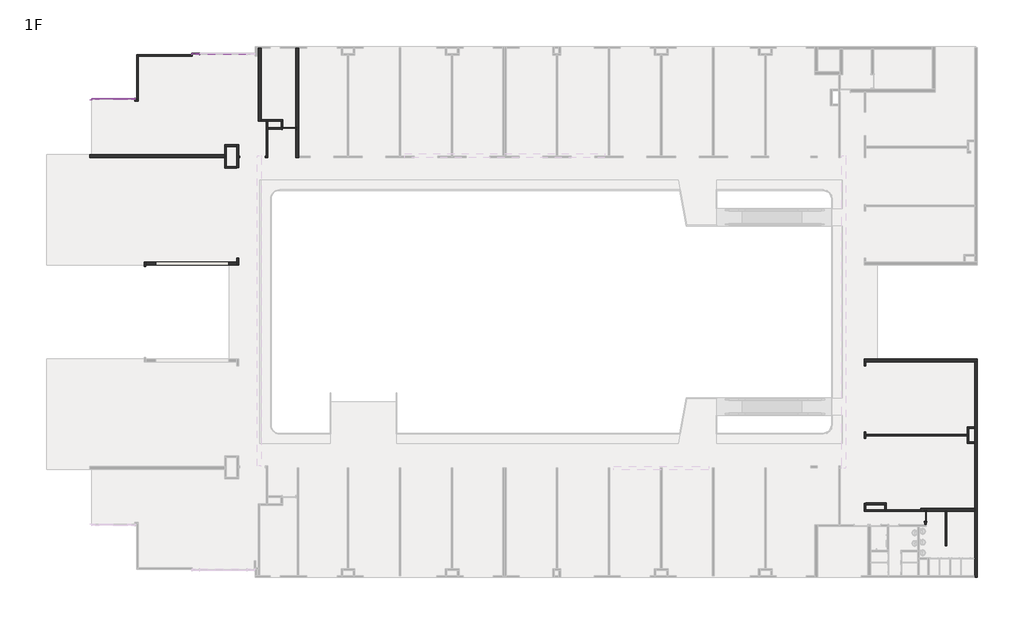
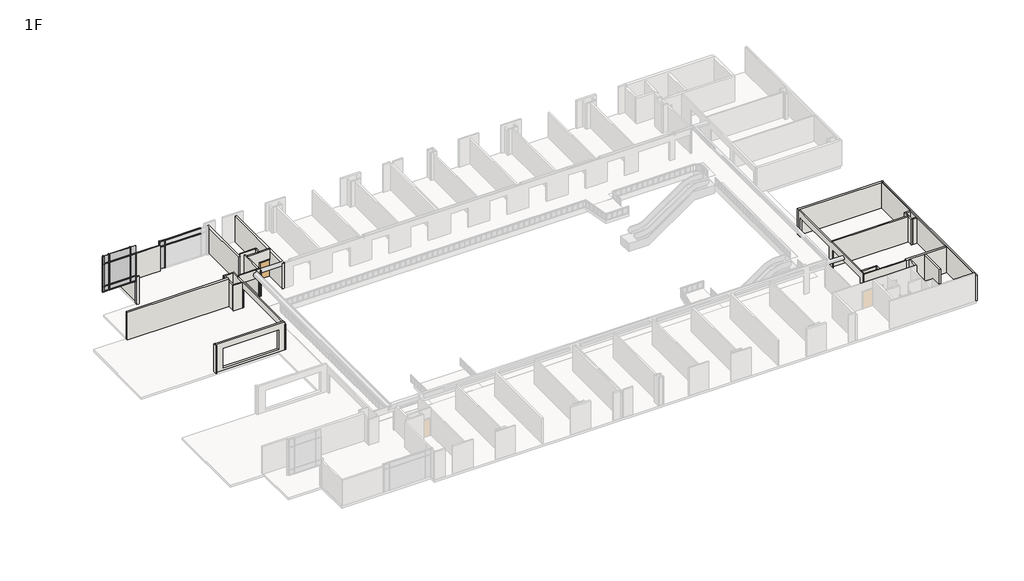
# One storey, part 3 of 5: 31 members, 30 walls, 11 plates, 2 doors.
"""IFC4 building model written with IfcOpenShell, lengths in millimetres."""

from ifc_helpers import new_model, si_unit, frame, origin, place, context, project, spatial, polyline, outline, extrude, faceted_brep, transform, mapped, element, save
from components import m_single_flush_d_1200x2150_ee7a6381, m_single_flush_d_900x2150_4cfb9a1c, rectangular_mullion_50_x_150mm_68b3818a, rectangular_mullion_50_x_150mm_64d38db8, rectangular_mullion_50_x_150mm_9e0f1e24, rectangular_mullion_50_x_150mm_d11e3bb4, rectangular_mullion_50_x_150mm_7d543e93, rectangular_mullion_50_x_150mm_9b8962c0, rectangular_mullion_50_x_150mm_32aaa733, rectangular_mullion_50_x_150mm_edc7ebc1, rectangular_mullion_50_x_150mm_567c0dda, rectangular_mullion_50_x_150mm_8786dd09, rectangular_mullion_50_x_150mm_b34d1ea9, rectangular_mullion_50_x_150mm_fb6851b2, rectangular_mullion_50_x_150mm_dbb82e9e, rectangular_mullion_50_x_150mm_bb797b61, v_corner_mullion_v_mullion_1_67d7d202, v_corner_mullion_v_mullion_1_71accf86, v_corner_mullion_v_mullion_1_86484a11, system_panel_glazed_6ff5b55b, system_panel_glazed_93ed122c, system_panel_glazed_9694b00d, system_panel_glazed_bcb18e60, system_panel_glazed_ecfc68fb, system_panel_glazed_010530aa

model = new_model("IFC4")

# Units and contexts
model_context = context("Model", 3, world=origin())
ifc_project = project(units=[si_unit("LENGTHUNIT", "METRE", prefix="MILLI")], contexts=[model_context])

# Site, building, storey
site = spatial("IfcSite", under=ifc_project)
building = spatial("IfcBuilding", under=site)
storey = spatial("IfcBuildingStorey", under=building, Name="1F", Elevation=4650.0)

# Doors
placement = place(None, origin())
m_single_flush_d_1200x2150_shape = m_single_flush_d_1200x2150_ee7a6381(model_context)
element("IfcDoor", 1, ObjectType="M_Single-Flush : D-1200x2150", at=placement, inside=storey, context=model_context, shape_type="MappedRepresentation", body=[
    mapped(m_single_flush_d_1200x2150_shape, transform((-18037.5865899, 13998.3851347, 4650.0), x_axis=(1.0, 0.0, 0.0), y_axis=(0.0, 1.0, 0.0), z_axis=(0.0, 0.0, 1.0))),
])
m_single_flush_d_900x2150_shape = m_single_flush_d_900x2150_4cfb9a1c(model_context)
element("IfcDoor", 2, ObjectType="M_Single-Flush : D-900x2150", at=placement, inside=storey, context=model_context, shape_type="MappedRepresentation", body=[
    mapped(m_single_flush_d_900x2150_shape, transform((38363.4134101, -20422.6148653, 4650.0), x_axis=(0.0, 1.0, 0.0), y_axis=(-1.0, 0.0, 0.0), z_axis=(0.0, 0.0, 1.0))),
])

# Members
rectangular_mullion_50_x_150mm_shape = rectangular_mullion_50_x_150mm_68b3818a(model_context)
element("IfcMember", 3, ObjectType="Rectangular Mullion : 50 x 150mm", at=placement, inside=storey, context=model_context, shape_type="MappedRepresentation", body=[
    mapped(rectangular_mullion_50_x_150mm_shape, transform((-26627.5865899, 20597.3851347, 7525.0), x_axis=(0.0, 0.0, 1.0), y_axis=(0.0, 1.0, 0.0), z_axis=(-1.0, 0.0, 0.0))),
])
rectangular_mullion_50_x_150mm_2_shape = rectangular_mullion_50_x_150mm_64d38db8(model_context)
element("IfcMember", 4, ObjectType="Rectangular Mullion : 50 x 150mm", at=placement, inside=storey, context=model_context, shape_type="MappedRepresentation", body=[
    mapped(rectangular_mullion_50_x_150mm_2_shape, transform((-26627.5865899, 20597.3851347, 8200.0), x_axis=(0.0, 0.0, 1.0), y_axis=(0.0, 1.0, 0.0), z_axis=(-1.0, 0.0, 0.0))),
])
element("IfcMember", 5, ObjectType="Rectangular Mullion : 50 x 150mm", at=placement, inside=storey, context=model_context, shape_type="MappedRepresentation", body=[
    mapped(rectangular_mullion_50_x_150mm_shape, transform((-32337.5865899, 16597.3851347, 10975.0), x_axis=(0.0, 0.0, 1.0), y_axis=(0.0, 1.0, 0.0), z_axis=(-1.0, 0.0, 0.0))),
])
element("IfcMember", 6, ObjectType="Rectangular Mullion : 50 x 150mm", at=placement, inside=storey, context=model_context, shape_type="MappedRepresentation", body=[
    mapped(rectangular_mullion_50_x_150mm_shape, transform((-35512.5865899, 16597.3851347, 10975.0), x_axis=(0.0, 0.0, 1.0), y_axis=(0.0, 1.0, 0.0), z_axis=(-1.0, 0.0, 0.0))),
])
element("IfcMember", 7, ObjectType="Rectangular Mullion : 50 x 150mm", at=placement, inside=storey, context=model_context, shape_type="MappedRepresentation", body=[
    mapped(rectangular_mullion_50_x_150mm_shape, transform((-32337.5865899, 16597.3851347, 8175.0), x_axis=(0.0, 0.0, 1.0), y_axis=(0.0, 1.0, 0.0), z_axis=(-1.0, 0.0, 0.0))),
])
element("IfcMember", 8, ObjectType="Rectangular Mullion : 50 x 150mm", at=placement, inside=storey, context=model_context, shape_type="MappedRepresentation", body=[
    mapped(rectangular_mullion_50_x_150mm_shape, transform((-35512.5865899, 16597.3851347, 8175.0), x_axis=(0.0, 0.0, 1.0), y_axis=(0.0, 1.0, 0.0), z_axis=(-1.0, 0.0, 0.0))),
])
element("IfcMember", 9, ObjectType="Rectangular Mullion : 50 x 150mm", at=placement, inside=storey, context=model_context, shape_type="MappedRepresentation", body=[
    mapped(rectangular_mullion_50_x_150mm_shape, transform((-32337.5865899, 16597.3851347, 7525.0), x_axis=(0.0, 0.0, 1.0), y_axis=(0.0, 1.0, 0.0), z_axis=(-1.0, 0.0, 0.0))),
])
element("IfcMember", 10, ObjectType="Rectangular Mullion : 50 x 150mm", at=placement, inside=storey, context=model_context, shape_type="MappedRepresentation", body=[
    mapped(rectangular_mullion_50_x_150mm_shape, transform((-35512.5865899, 16597.3851347, 7525.0), x_axis=(0.0, 0.0, 1.0), y_axis=(0.0, 1.0, 0.0), z_axis=(-1.0, 0.0, 0.0))),
])
rectangular_mullion_50_x_150mm_3_shape = rectangular_mullion_50_x_150mm_9e0f1e24(model_context)
element("IfcMember", 11, ObjectType="Rectangular Mullion : 50 x 150mm", at=placement, inside=storey, context=model_context, shape_type="MappedRepresentation", body=[
    mapped(rectangular_mullion_50_x_150mm_3_shape, transform((-26652.5865899, 20597.3851347, 7525.0), x_axis=(-1.0, 0.0, 0.0), y_axis=(0.0, 1.0, 0.0), z_axis=(0.0, 0.0, -1.0))),
])
element("IfcMember", 12, ObjectType="Rectangular Mullion : 50 x 150mm", at=placement, inside=storey, context=model_context, shape_type="MappedRepresentation", body=[
    mapped(rectangular_mullion_50_x_150mm_3_shape, transform((-26002.5865899, 20597.3851347, 7525.0), x_axis=(-1.0, 0.0, 0.0), y_axis=(0.0, 1.0, 0.0), z_axis=(0.0, 0.0, -1.0))),
])
rectangular_mullion_50_x_150mm_4_shape = rectangular_mullion_50_x_150mm_d11e3bb4(model_context)
element("IfcMember", 13, ObjectType="Rectangular Mullion : 50 x 150mm", at=placement, inside=storey, context=model_context, shape_type="MappedRepresentation", body=[
    mapped(rectangular_mullion_50_x_150mm_4_shape, transform((-32362.5865899, 16597.3851347, 8175.0), x_axis=(-1.0, 0.0, 0.0), y_axis=(0.0, 1.0, 0.0), z_axis=(0.0, 0.0, -1.0))),
])
element("IfcMember", 14, ObjectType="Rectangular Mullion : 50 x 150mm", at=placement, inside=storey, context=model_context, shape_type="MappedRepresentation", body=[
    mapped(rectangular_mullion_50_x_150mm_4_shape, transform((-34887.5865899, 16597.3851347, 8175.0), x_axis=(-1.0, 0.0, 0.0), y_axis=(0.0, 1.0, 0.0), z_axis=(0.0, 0.0, -1.0))),
])
rectangular_mullion_50_x_150mm_5_shape = rectangular_mullion_50_x_150mm_7d543e93(model_context)
element("IfcMember", 15, ObjectType="Rectangular Mullion : 50 x 150mm", at=placement, inside=storey, context=model_context, shape_type="MappedRepresentation", body=[
    mapped(rectangular_mullion_50_x_150mm_5_shape, transform((-32362.5865899, 16597.3851347, 7525.0), x_axis=(-1.0, 0.0, 0.0), y_axis=(0.0, 1.0, 0.0), z_axis=(0.0, 0.0, -1.0))),
])
element("IfcMember", 16, ObjectType="Rectangular Mullion : 50 x 150mm", at=placement, inside=storey, context=model_context, shape_type="MappedRepresentation", body=[
    mapped(rectangular_mullion_50_x_150mm_5_shape, transform((-34887.5865899, 16597.3851347, 7525.0), x_axis=(-1.0, 0.0, 0.0), y_axis=(0.0, 1.0, 0.0), z_axis=(0.0, 0.0, -1.0))),
])
rectangular_mullion_50_x_150mm_6_shape = rectangular_mullion_50_x_150mm_9b8962c0(model_context)
element("IfcMember", 17, ObjectType="Rectangular Mullion : 50 x 150mm", at=placement, inside=storey, context=model_context, shape_type="MappedRepresentation", body=[
    mapped(rectangular_mullion_50_x_150mm_6_shape, transform((-31687.5865899, 16597.3851347, 8175.0), x_axis=(1.0, 0.0, 0.0), y_axis=(0.0, 1.0, 0.0), z_axis=(0.0, 0.0, 1.0))),
])
rectangular_mullion_50_x_150mm_7_shape = rectangular_mullion_50_x_150mm_32aaa733(model_context)
element("IfcMember", 18, ObjectType="Rectangular Mullion : 50 x 150mm", at=placement, inside=storey, context=model_context, shape_type="MappedRepresentation", body=[
    mapped(rectangular_mullion_50_x_150mm_7_shape, transform((-31687.5865899, 16597.3851347, 10975.0), x_axis=(1.0, 0.0, 0.0), y_axis=(0.0, 1.0, 0.0), z_axis=(0.0, 0.0, 1.0))),
])
rectangular_mullion_50_x_150mm_8_shape = rectangular_mullion_50_x_150mm_edc7ebc1(model_context)
element("IfcMember", 19, ObjectType="Rectangular Mullion : 50 x 150mm", at=placement, inside=storey, context=model_context, shape_type="MappedRepresentation", body=[
    mapped(rectangular_mullion_50_x_150mm_8_shape, transform((-34862.5865899, 16597.3851347, 10975.0), x_axis=(0.0, 0.0, 1.0), y_axis=(0.0, 1.0, 0.0), z_axis=(-1.0, 0.0, 0.0))),
])
element("IfcMember", 20, ObjectType="Rectangular Mullion : 50 x 150mm", at=placement, inside=storey, context=model_context, shape_type="MappedRepresentation", body=[
    mapped(rectangular_mullion_50_x_150mm_8_shape, transform((-34862.5865899, 16597.3851347, 8175.0), x_axis=(0.0, 0.0, 1.0), y_axis=(0.0, 1.0, 0.0), z_axis=(-1.0, 0.0, 0.0))),
])
element("IfcMember", 21, ObjectType="Rectangular Mullion : 50 x 150mm", at=placement, inside=storey, context=model_context, shape_type="MappedRepresentation", body=[
    mapped(rectangular_mullion_50_x_150mm_8_shape, transform((-34862.5865899, 16597.3851347, 7525.0), x_axis=(0.0, 0.0, 1.0), y_axis=(0.0, 1.0, 0.0), z_axis=(-1.0, 0.0, 0.0))),
])
rectangular_mullion_50_x_150mm_9_shape = rectangular_mullion_50_x_150mm_567c0dda(model_context)
element("IfcMember", 22, ObjectType="Rectangular Mullion : 50 x 150mm", at=placement, inside=storey, context=model_context, shape_type="MappedRepresentation", body=[
    mapped(rectangular_mullion_50_x_150mm_9_shape, transform((-26652.5865899, 20597.3851347, 4750.0), x_axis=(-1.0, 0.0, 0.0), y_axis=(0.0, 1.0, 0.0), z_axis=(0.0, 0.0, -1.0))),
])
element("IfcMember", 23, ObjectType="Rectangular Mullion : 50 x 150mm", at=placement, inside=storey, context=model_context, shape_type="MappedRepresentation", body=[
    mapped(rectangular_mullion_50_x_150mm_9_shape, transform((-26002.5865899, 20597.3851347, 4750.0), x_axis=(-1.0, 0.0, 0.0), y_axis=(0.0, 1.0, 0.0), z_axis=(0.0, 0.0, -1.0))),
])
rectangular_mullion_50_x_150mm_10_shape = rectangular_mullion_50_x_150mm_8786dd09(model_context)
element("IfcMember", 24, ObjectType="Rectangular Mullion : 50 x 150mm", at=placement, inside=storey, context=model_context, shape_type="MappedRepresentation", body=[
    mapped(rectangular_mullion_50_x_150mm_10_shape, transform((-25977.5865899, 20597.3851347, 7525.0), x_axis=(0.0, 0.0, 1.0), y_axis=(0.0, 1.0, 0.0), z_axis=(-1.0, 0.0, 0.0))),
])
rectangular_mullion_50_x_150mm_11_shape = rectangular_mullion_50_x_150mm_b34d1ea9(model_context)
element("IfcMember", 25, ObjectType="Rectangular Mullion : 50 x 150mm", at=placement, inside=storey, context=model_context, shape_type="MappedRepresentation", body=[
    mapped(rectangular_mullion_50_x_150mm_11_shape, transform((-25977.5865899, 20597.3851347, 8200.0), x_axis=(0.0, 0.0, 1.0), y_axis=(0.0, 1.0, 0.0), z_axis=(-1.0, 0.0, 0.0))),
])
rectangular_mullion_50_x_150mm_12_shape = rectangular_mullion_50_x_150mm_fb6851b2(model_context)
element("IfcMember", 26, ObjectType="Rectangular Mullion : 50 x 150mm", at=placement, inside=storey, context=model_context, shape_type="MappedRepresentation", body=[
    mapped(rectangular_mullion_50_x_150mm_12_shape, transform((-26677.5865899, 20597.3851347, 4750.0), x_axis=(-1.0, 0.0, 0.0), y_axis=(0.0, 1.0, 0.0), z_axis=(0.0, 0.0, -1.0))),
])
rectangular_mullion_50_x_150mm_13_shape = rectangular_mullion_50_x_150mm_dbb82e9e(model_context)
element("IfcMember", 27, ObjectType="Rectangular Mullion : 50 x 150mm", at=placement, inside=storey, context=model_context, shape_type="MappedRepresentation", body=[
    mapped(rectangular_mullion_50_x_150mm_13_shape, transform((-26677.5865899, 20597.3851347, 7525.0), x_axis=(-1.0, 0.0, 0.0), y_axis=(0.0, 1.0, 0.0), z_axis=(0.0, 0.0, -1.0))),
])
element("IfcMember", 28, ObjectType="Rectangular Mullion : 50 x 150mm", at=placement, inside=storey, context=model_context, shape_type="MappedRepresentation", body=[
    mapped(rectangular_mullion_50_x_150mm_12_shape, transform((-31687.5865899, 16597.3851347, 7525.0), x_axis=(1.0, 0.0, 0.0), y_axis=(0.0, 1.0, 0.0), z_axis=(0.0, 0.0, 1.0))),
])
rectangular_mullion_50_x_150mm_14_shape = rectangular_mullion_50_x_150mm_bb797b61(model_context)
element("IfcMember", 29, ObjectType="Rectangular Mullion : 50 x 150mm", at=placement, inside=storey, context=model_context, shape_type="MappedRepresentation", body=[
    mapped(rectangular_mullion_50_x_150mm_14_shape, transform((-32362.5865899, 16597.3851347, 10975.0), x_axis=(-1.0, 0.0, 0.0), y_axis=(0.0, 1.0, 0.0), z_axis=(0.0, 0.0, -1.0))),
])
element("IfcMember", 30, ObjectType="Rectangular Mullion : 50 x 150mm", at=placement, inside=storey, context=model_context, shape_type="MappedRepresentation", body=[
    mapped(rectangular_mullion_50_x_150mm_14_shape, transform((-34887.5865899, 16597.3851347, 10975.0), x_axis=(-1.0, 0.0, 0.0), y_axis=(0.0, 1.0, 0.0), z_axis=(0.0, 0.0, -1.0))),
])
v_corner_mullion_v_mullion_1_shape = v_corner_mullion_v_mullion_1_67d7d202(model_context)
element("IfcMember", 31, ObjectType="V Corner Mullion : V Mullion 1", at=placement, inside=storey, context=model_context, shape_type="MappedRepresentation", body=[
    mapped(v_corner_mullion_v_mullion_1_shape, transform((-35612.5865899, 16597.3851347, 8175.0), x_axis=(-1.0, 0.0, 0.0), y_axis=(0.0, 1.0, 0.0), z_axis=(0.0, 0.0, -1.0))),
])
v_corner_mullion_v_mullion_1_2_shape = v_corner_mullion_v_mullion_1_71accf86(model_context)
element("IfcMember", 32, ObjectType="V Corner Mullion : V Mullion 1", at=placement, inside=storey, context=model_context, shape_type="MappedRepresentation", body=[
    mapped(v_corner_mullion_v_mullion_1_2_shape, transform((-35612.5865899, 16597.3851347, 7525.0), x_axis=(-1.0, 0.0, 0.0), y_axis=(0.0, 1.0, 0.0), z_axis=(0.0, 0.0, -1.0))),
])
v_corner_mullion_v_mullion_1_3_shape = v_corner_mullion_v_mullion_1_86484a11(model_context)
element("IfcMember", 33, ObjectType="V Corner Mullion : V Mullion 1", at=placement, inside=storey, context=model_context, shape_type="MappedRepresentation", body=[
    mapped(v_corner_mullion_v_mullion_1_3_shape, transform((-35612.5865899, 16597.3851347, 10975.0), x_axis=(-1.0, 0.0, 0.0), y_axis=(0.0, 1.0, 0.0), z_axis=(0.0, 0.0, -1.0))),
])

# Plates
system_panel_glazed_shape = system_panel_glazed_6ff5b55b(model_context)
element("IfcPlate", 34, ObjectType="System Panel : Glazed", at=placement, inside=storey, context=model_context, shape_type="MappedRepresentation", body=[
    mapped(system_panel_glazed_shape, transform((-26327.5865899, 20597.3851347, 4750.0), x_axis=(-1.0, 0.0, 0.0), y_axis=(0.0, -1.0, 0.0), z_axis=(0.0, 0.0, 1.0))),
])
element("IfcPlate", 35, ObjectType="System Panel : Glazed", at=placement, inside=storey, context=model_context, shape_type="MappedRepresentation", body=[
    mapped(system_panel_glazed_shape, transform((-32037.5865899, 16597.3851347, 8200.0), x_axis=(-1.0, 0.0, 0.0), y_axis=(0.0, -1.0, 0.0), z_axis=(0.0, 0.0, 1.0))),
])
element("IfcPlate", 36, ObjectType="System Panel : Glazed", at=placement, inside=storey, context=model_context, shape_type="MappedRepresentation", body=[
    mapped(system_panel_glazed_shape, transform((-35212.5865899, 16597.3851347, 8200.0), x_axis=(-1.0, 0.0, 0.0), y_axis=(0.0, -1.0, 0.0), z_axis=(0.0, 0.0, 1.0))),
])
system_panel_glazed_2_shape = system_panel_glazed_93ed122c(model_context)
element("IfcPlate", 37, ObjectType="System Panel : Glazed", at=placement, inside=storey, context=model_context, shape_type="MappedRepresentation", body=[
    mapped(system_panel_glazed_2_shape, transform((-26327.5865899, 20597.3851347, 7550.0), x_axis=(-1.0, 0.0, 0.0), y_axis=(0.0, -1.0, 0.0), z_axis=(0.0, 0.0, 1.0))),
])
element("IfcPlate", 38, ObjectType="System Panel : Glazed", at=placement, inside=storey, context=model_context, shape_type="MappedRepresentation", body=[
    mapped(system_panel_glazed_2_shape, transform((-32037.5865899, 16597.3851347, 7550.0), x_axis=(-1.0, 0.0, 0.0), y_axis=(0.0, -1.0, 0.0), z_axis=(0.0, 0.0, 1.0))),
])
element("IfcPlate", 39, ObjectType="System Panel : Glazed", at=placement, inside=storey, context=model_context, shape_type="MappedRepresentation", body=[
    mapped(system_panel_glazed_2_shape, transform((-35212.5865899, 16597.3851347, 7550.0), x_axis=(-1.0, 0.0, 0.0), y_axis=(0.0, -1.0, 0.0), z_axis=(0.0, 0.0, 1.0))),
])
system_panel_glazed_3_shape = system_panel_glazed_9694b00d(model_context)
element("IfcPlate", 40, ObjectType="System Panel : Glazed", at=placement, inside=storey, context=model_context, shape_type="MappedRepresentation", body=[
    mapped(system_panel_glazed_3_shape, transform((-33625.0865899, 16597.3851347, 7550.0), x_axis=(-1.0, 0.0, 0.0), y_axis=(0.0, -1.0, 0.0), z_axis=(0.0, 0.0, 1.0))),
])
system_panel_glazed_4_shape = system_panel_glazed_bcb18e60(model_context)
element("IfcPlate", 41, ObjectType="System Panel : Glazed", at=placement, inside=storey, context=model_context, shape_type="MappedRepresentation", body=[
    mapped(system_panel_glazed_4_shape, transform((-33625.0865899, 16597.3851347, 8200.0), x_axis=(-1.0, 0.0, 0.0), y_axis=(0.0, -1.0, 0.0), z_axis=(0.0, 0.0, 1.0))),
])
system_panel_glazed_5_shape = system_panel_glazed_ecfc68fb(model_context)
element("IfcPlate", 42, ObjectType="System Panel : Glazed", at=placement, inside=storey, context=model_context, shape_type="MappedRepresentation", body=[
    mapped(system_panel_glazed_5_shape, transform((-32037.5865899, 16597.3851347, 11000.0), x_axis=(-1.0, 0.0, 0.0), y_axis=(0.0, -1.0, 0.0), z_axis=(0.0, 0.0, 1.0))),
])
element("IfcPlate", 43, ObjectType="System Panel : Glazed", at=placement, inside=storey, context=model_context, shape_type="MappedRepresentation", body=[
    mapped(system_panel_glazed_5_shape, transform((-35212.5865899, 16597.3851347, 11000.0), x_axis=(-1.0, 0.0, 0.0), y_axis=(0.0, -1.0, 0.0), z_axis=(0.0, 0.0, 1.0))),
])
system_panel_glazed_6_shape = system_panel_glazed_010530aa(model_context)
element("IfcPlate", 44, ObjectType="System Panel : Glazed", at=placement, inside=storey, context=model_context, shape_type="MappedRepresentation", body=[
    mapped(system_panel_glazed_6_shape, transform((-33625.0865899, 16597.3851347, 11000.0), x_axis=(-1.0, 0.0, 0.0), y_axis=(0.0, -1.0, 0.0), z_axis=(0.0, 0.0, 1.0))),
])

# Walls
element("IfcWall", 45, ObjectType="wall-115", at=placement, inside=storey, context=model_context, shape_type="Brep", body=[
    faceted_brep([(37962.4134101, -19845.6148653, 4650.0), (34889.4134101, -19845.6148653, 4650.0), (34747.4134101, -19845.6148653, 4650.0), (33089.4134101, -19845.6148653, 4650.0), (32947.4134101, -19845.6148653, 4650.0), (32947.4134101, -19845.6148653, 7825.0), (33089.4134101, -19845.6148653, 7825.0), (34747.4134101, -19845.6148653, 7825.0), (34889.4134101, -19845.6148653, 7825.0), (37962.4134101, -19845.6148653, 7825.0), (37962.4134101, -19987.6148653, 4650.0), (37962.4134101, -19987.6148653, 7825.0), (32947.4134101, -19987.6148653, 7825.0), (32947.4134101, -19987.6148653, 4650.0), (37962.4134101, -19984.6148653, 4650.0), (37962.4134101, -19984.6148653, 7825.0)], [[[0, 1, 2, 3, 4, 5, 6, 7, 8, 9]], [[10, 11, 12, 13]], [[4, 3, 2, 1, 0, 14, 10, 13]], [[0, 9, 15, 11, 10, 14]], [[5, 4, 13, 12]], [[9, 8, 7, 6, 5, 12, 11, 15]]]),
])
element("IfcWall", 46, ObjectType="wall-115", at=placement, inside=storey, context=model_context, shape_type="SweptSolid", body=[
    extrude(outline(polyline([(42055.4134101, -13292.1148653), (33089.4134101, -13292.1148653), (33089.4134101, -13150.1148653), (42055.4134101, -13150.1148653), (42055.4134101, -13292.1148653)])), frame((0.0, 0.0, 4650.0), z_axis=(0.0, 0.0, 1.0), x_axis=(1.0, 0.0, 0.0)), (0.0, 0.0, 1.0), 3175.0),
])
element("IfcWall", 47, ObjectType="wall-115", at=placement, inside=storey, context=model_context, shape_type="Brep", body=[
    faceted_brep([(-22525.5865899, 1885.3851347, 4650.0), (-22525.5865899, 2497.4013413, 4650.0), (-22525.5865899, 2497.4013413, 7050.0), (-22525.5865899, 10497.4013413, 7050.0), (-22525.5865899, 10497.4013413, 4650.0), (-22525.5865899, 11385.3851347, 4650.0), (-22525.5865899, 11527.3851347, 4650.0), (-22525.5865899, 12539.3851348, 4650.0), (-22525.5865899, 12539.3851348, 7825.0), (-22525.5865899, 1885.3851347, 7825.0), (-22667.5865899, 2497.4013413, 7050.0), (-22667.5865899, 2497.4013413, 4650.0), (-22667.5865899, 2142.3851347, 4650.0), (-22667.5865899, 1885.3851347, 4650.0), (-22667.5865899, 1885.3851347, 7825.0), (-22667.5865899, 10482.4013413, 7825.0), (-22667.5865899, 10624.4013413, 7825.0), (-22667.5865899, 12397.3851348, 7825.0), (-22667.5865899, 12539.3851348, 7825.0), (-22667.5865899, 12539.3851348, 4650.0), (-22667.5865899, 12397.3851348, 4650.0), (-22667.5865899, 10624.4013413, 4650.0), (-22667.5865899, 10497.4013413, 4650.0), (-22667.5865899, 10497.4013413, 7050.0)], [[[0, 1, 2, 3, 4, 5, 6, 7, 8, 9]], [[10, 11, 12, 13, 14, 15, 16, 17, 18, 19, 20, 21, 22, 23]], [[13, 12, 11, 1, 0]], [[22, 21, 20, 19, 7, 6, 5, 4]], [[8, 7, 19, 18]], [[0, 9, 14, 13]], [[9, 8, 18, 17, 16, 15, 14]], [[3, 2, 10, 23]], [[4, 3, 23, 22]], [[2, 1, 11, 10]]]),
])
element("IfcWall", 48, ObjectType="wall-115", at=placement, inside=storey, context=model_context, shape_type="Brep", body=[
    faceted_brep([(-22667.5865899, 10624.4013413, 4650.0), (-23605.5865898, 10624.4013413, 4650.0), (-23747.5865898, 10624.4013413, 4650.0), (-23747.5865898, 10624.4013413, 7825.0), (-23605.5865898, 10624.4013413, 7825.0), (-22667.5865899, 10624.4013413, 7825.0), (-22667.5865899, 10482.4013413, 4650.0), (-22667.5865899, 10482.4013413, 7825.0), (-23747.5865898, 10482.4013413, 7825.0), (-23747.5865898, 10482.4013413, 4650.0), (-22667.5865899, 10497.4013413, 4650.0)], [[[0, 1, 2, 3, 4, 5]], [[6, 7, 8, 9]], [[2, 1, 0, 10, 6, 9]], [[3, 2, 9, 8]], [[0, 5, 7, 6, 10]], [[5, 4, 3, 8, 7]]]),
])
element("IfcWall", 49, ObjectType="wall-115", at=placement, inside=storey, context=model_context, shape_type="Brep", body=[
    faceted_brep([(-23605.5865898, 10624.4013413, 4650.0), (-23605.5865898, 12397.3851348, 4650.0), (-23605.5865898, 12397.3851348, 7825.0), (-23605.5865898, 10624.4013413, 7825.0), (-23747.5865898, 10624.4013413, 4650.0), (-23747.5865898, 10624.4013413, 7825.0), (-23747.5865898, 12397.3851348, 7825.0), (-23747.5865898, 12397.3851348, 4650.0), (-23747.5865898, 11662.3851347, 4650.0), (-23747.5865898, 11405.3851347, 4650.0)], [[[0, 1, 2, 3]], [[4, 5, 6, 7, 8, 9]], [[1, 0, 4, 9, 8, 7]], [[0, 3, 5, 4]], [[2, 1, 7, 6]], [[3, 2, 6, 5]]]),
])
element("IfcWall", 50, ObjectType="wall-115", at=placement, inside=storey, context=model_context, shape_type="Brep", body=[
    faceted_brep([(-22667.5865899, 12539.3851348, 4650.0), (-23747.5865898, 12539.3851348, 4650.0), (-23747.5865898, 12539.3851348, 7825.0), (-22667.5865899, 12539.3851348, 7825.0), (-22667.5865899, 12397.3851348, 4650.0), (-22667.5865899, 12397.3851348, 7825.0), (-23605.5865898, 12397.3851348, 7825.0), (-23747.5865898, 12397.3851348, 7825.0), (-23747.5865898, 12397.3851348, 4650.0), (-23605.5865898, 12397.3851348, 4650.0)], [[[0, 1, 2, 3]], [[4, 5, 6, 7, 8, 9]], [[1, 0, 4, 9, 8]], [[2, 1, 8, 7]], [[0, 3, 5, 4]], [[3, 2, 7, 6, 5]]]),
])
element("IfcWall", 51, ObjectType="wall-115", at=placement, inside=storey, context=model_context, shape_type="Brep", body=[
    faceted_brep([(-19940.5865899, 11385.3851347, 4650.0), (-19940.5865899, 13927.3851347, 4650.0), (-19940.5865899, 14069.3851347, 4650.0), (-19940.5865899, 14645.3851347, 4650.0), (-19940.5865899, 14645.3851347, 7825.0), (-19940.5865899, 14069.3851347, 7825.0), (-19940.5865899, 13927.3851347, 7825.0), (-19940.5865899, 11409.3851347, 7825.0), (-19940.5865899, 11385.3851347, 7825.0), (-20082.5865899, 11385.3851347, 4650.0), (-20082.5865899, 11385.3851347, 7825.0), (-20082.5865899, 11409.3851347, 7825.0), (-20082.5865899, 14645.3851347, 7825.0), (-20082.5865899, 14645.3851347, 4650.0), (-20082.5865899, 11527.3851347, 4650.0)], [[[0, 1, 2, 3, 4, 5, 6, 7, 8]], [[9, 10, 11, 12, 13, 14]], [[3, 2, 1, 0, 9, 14, 13]], [[0, 8, 10, 9]], [[4, 3, 13, 12]], [[8, 7, 11, 10]], [[7, 6, 5, 4, 12, 11]]]),
])
element("IfcWall", 52, ObjectType="wall-115", at=placement, inside=storey, context=model_context, shape_type="Brep", body=[
    faceted_brep([(-31549.5865899, 20534.3851347, 4650.0), (-31549.5865899, 16534.3851347, 4650.0), (-31549.5865899, 16534.3851347, 7825.0), (-31549.5865899, 20534.3851347, 7825.0), (-31407.5865899, 20534.3851347, 4650.0), (-31407.5865899, 20534.3851347, 7825.0), (-31407.5865899, 20392.3851347, 7825.0), (-31407.5865899, 16534.3851347, 7825.0), (-31407.5865899, 16534.3851347, 4650.0), (-31407.5865899, 20392.3851347, 4650.0)], [[[0, 1, 2, 3]], [[4, 5, 6, 7, 8, 9]], [[1, 0, 4, 9, 8]], [[0, 3, 5, 4]], [[2, 1, 8, 7]], [[3, 2, 7, 6, 5]]]),
])
element("IfcWall", 53, ObjectType="wall-115", at=placement, inside=storey, context=model_context, shape_type="Brep", body=[
    faceted_brep([(42055.4134101, -12495.6148653, 4650.0), (42055.4134101, -13150.1148653, 4650.0), (42055.4134101, -13292.1148653, 4650.0), (42055.4134101, -13949.6148653, 4650.0), (42055.4134101, -13949.6148653, 7825.0), (42055.4134101, -13292.1148653, 7825.0), (42055.4134101, -13150.1148653, 7825.0), (42055.4134101, -12495.6148653, 7825.0), (42197.4134101, -12495.6148653, 4650.0), (42197.4134101, -12495.6148653, 7825.0), (42197.4134101, -12637.6148653, 7825.0), (42197.4134101, -13807.6148653, 7825.0), (42197.4134101, -13949.6148653, 7825.0), (42197.4134101, -13949.6148653, 4650.0), (42197.4134101, -13807.6148653, 4650.0), (42197.4134101, -12637.6148653, 4650.0)], [[[0, 1, 2, 3, 4, 5, 6, 7]], [[8, 9, 10, 11, 12, 13, 14, 15]], [[3, 2, 1, 0, 8, 15, 14, 13]], [[4, 3, 13, 12]], [[0, 7, 9, 8]], [[7, 6, 5, 4, 12, 11, 10, 9]]]),
])
element("IfcWall", 54, ObjectType="wall-115", at=placement, inside=storey, context=model_context, shape_type="SweptSolid", body=[
    extrude(outline(polyline([(-21157.6148653, 4650.0), (-21157.6148653, 7825.0), (-19984.6148653, 7825.0), (-19984.6148653, 6800.0), (-20872.6148653, 6800.0), (-20872.6148653, 4650.0), (-21157.6148653, 4650.0)])), frame((38292.4134101, 0.0, 0.0), z_axis=(1.0, 0.0, 0.0), x_axis=(0.0, 1.0, 0.0)), (0.0, 0.0, 1.0), 142.0),
])
element("IfcWall", 55, ObjectType="wall-115", at=placement, inside=storey, context=model_context, shape_type="SweptSolid", body=[
    extrude(outline(polyline([(40244.8019347, -19984.6148653), (40244.8019347, -23027.6148653), (40102.8019347, -23027.6148653), (40102.8019347, -19984.6148653), (40244.8019347, -19984.6148653)])), frame((0.0, 0.0, 4650.0), z_axis=(0.0, 0.0, 1.0), x_axis=(1.0, 0.0, 0.0)), (0.0, 0.0, 1.0), 3175.0),
])
element("IfcWall", 56, ObjectType="wall-115", at=placement, inside=storey, context=model_context, shape_type="Brep", body=[
    faceted_brep([(-20082.5865899, 11385.3851347, 8100.0), (-22525.5865899, 11385.3851347, 8100.0), (-22525.5865899, 11385.3851347, 4650.0), (-22422.5865899, 11385.3851347, 4650.0), (-22422.5865899, 11385.3851347, 7050.0), (-20182.5865899, 11385.3851347, 7050.0), (-20182.5865899, 11385.3851347, 4650.0), (-20082.5865899, 11385.3851347, 4650.0), (-20082.5865899, 11385.3851347, 7825.0), (-22525.5865899, 11527.3851347, 8100.0), (-20082.5865899, 11527.3851347, 8100.0), (-20082.5865899, 11527.3851347, 4650.0), (-20182.5865899, 11527.3851347, 4650.0), (-20182.5865899, 11527.3851347, 7050.0), (-22422.5865899, 11527.3851347, 7050.0), (-22422.5865899, 11527.3851347, 4650.0), (-22525.5865899, 11527.3851347, 4650.0)], [[[0, 1, 2, 3, 4, 5, 6, 7, 8]], [[9, 10, 11, 12, 13, 14, 15, 16]], [[11, 7, 6, 12]], [[2, 16, 15, 3]], [[1, 0, 10, 9]], [[0, 8, 7, 11, 10]], [[2, 1, 9, 16]], [[4, 14, 13, 5]], [[5, 13, 12, 6]], [[14, 4, 3, 15]]]),
])
element("IfcWall", 57, ObjectType="wall-115", at=placement, inside=storey, context=model_context, shape_type="Brep", body=[
    faceted_brep([(33089.4134101, -19387.6148653, 4650.0), (34747.4134101, -19387.6148653, 4650.0), (34889.4134101, -19387.6148653, 4650.0), (34889.4134101, -19387.6148653, 7825.0), (34747.4134101, -19387.6148653, 7825.0), (33089.4134101, -19387.6148653, 7825.0), (33089.4134101, -19245.6148653, 4650.0), (33089.4134101, -19245.6148653, 7825.0), (34889.4134101, -19245.6148653, 7825.0), (34889.4134101, -19245.6148653, 4650.0), (33089.4134101, -19257.6148653, 4650.0)], [[[0, 1, 2, 3, 4, 5]], [[6, 7, 8, 9]], [[2, 1, 0, 10, 6, 9]], [[3, 2, 9, 8]], [[0, 5, 7, 6, 10]], [[5, 4, 3, 8, 7]]]),
])
element("IfcWall", 58, ObjectType="wall-115", at=placement, inside=storey, context=model_context, shape_type="SweptSolid", body=[
    extrude(outline(polyline([(34747.4134101, -19845.6148653), (34747.4134101, -19387.6148653), (34889.4134101, -19387.6148653), (34889.4134101, -19845.6148653), (34747.4134101, -19845.6148653)])), frame((0.0, 0.0, 4650.0), z_axis=(0.0, 0.0, 1.0), x_axis=(1.0, 0.0, 0.0)), (0.0, 0.0, 1.0), 3175.0),
])
element("IfcWall", 59, ObjectType="wall-115", at=placement, inside=storey, context=model_context, shape_type="SweptSolid", body=[
    extrude(outline(polyline([(42717.4134101, -12637.6148653), (42197.4134101, -12637.6148653), (42197.4134101, -12495.6148653), (42717.4134101, -12495.6148653), (42717.4134101, -12637.6148653)])), frame((0.0, 0.0, 4650.0), z_axis=(0.0, 0.0, 1.0), x_axis=(1.0, 0.0, 0.0)), (0.0, 0.0, 1.0), 3175.0),
])
element("IfcWall", 60, ObjectType="wall-115", at=placement, inside=storey, context=model_context, shape_type="SweptSolid", body=[
    extrude(outline(polyline([(42717.4134101, -13949.6148653), (42197.4134101, -13949.6148653), (42197.4134101, -13807.6148653), (42717.4134101, -13807.6148653), (42717.4134101, -13949.6148653)])), frame((0.0, 0.0, 4650.0), z_axis=(0.0, 0.0, 1.0), x_axis=(1.0, 0.0, 0.0)), (0.0, 0.0, 1.0), 3175.0),
])
element("IfcWall", 61, ObjectType="wall-115", at=placement, inside=storey, context=model_context, shape_type="Brep", body=[
    faceted_brep([(33089.4134101, -19845.6148653, 7825.0), (33089.4134101, -19845.6148653, 4650.0), (33089.4134101, -19387.6148653, 4650.0), (33089.4134101, -19257.6148653, 4650.0), (33089.4134101, -19257.6148653, 7050.0), (33089.4134101, -13522.6148653, 7050.0), (33089.4134101, -13522.6148653, 4650.0), (33089.4134101, -13292.1148653, 4650.0), (33089.4134101, -13150.1148653, 4650.0), (33089.4134101, -12922.6148653, 4650.0), (33089.4134101, -12922.6148653, 7050.0), (33089.4134101, -7072.6148653, 7050.0), (33089.4134101, -7072.6148653, 4650.0), (33089.4134101, -6714.6148653, 4650.0), (33089.4134101, -6714.6148653, 7825.0), (33089.4134101, -13150.1148653, 7825.0), (33089.4134101, -13292.1148653, 7825.0), (33089.4134101, -19245.6148653, 7825.0), (33089.4134101, -19387.6148653, 7825.0), (32947.4134101, -19845.6148653, 4650.0), (32947.4134101, -19845.6148653, 7825.0), (32947.4134101, -6714.6148653, 7825.0), (32947.4134101, -6714.6148653, 4650.0), (32947.4134101, -7072.6148653, 4650.0), (32947.4134101, -7072.6148653, 7050.0), (32947.4134101, -12922.6148653, 7050.0), (32947.4134101, -12922.6148653, 4650.0), (32947.4134101, -13522.6148653, 4650.0), (32947.4134101, -13522.6148653, 7050.0), (32947.4134101, -19257.6148653, 7050.0), (32947.4134101, -19257.6148653, 4650.0)], [[[0, 1, 2, 3, 4, 5, 6, 7, 8, 9, 10, 11, 12, 13, 14, 15, 16, 17, 18]], [[19, 20, 21, 22, 23, 24, 25, 26, 27, 28, 29, 30]], [[1, 19, 30, 3, 2]], [[22, 13, 12, 23]], [[6, 27, 26, 9, 8, 7]], [[1, 0, 20, 19]], [[14, 13, 22, 21]], [[0, 18, 17, 16, 15, 14, 21, 20]], [[4, 29, 28, 5]], [[5, 28, 27, 6]], [[29, 4, 3, 30]], [[24, 11, 10, 25]], [[25, 10, 9, 26]], [[11, 24, 23, 12]]]),
])
element("IfcWall", 62, ObjectType="wall-115", at=placement, inside=storey, context=model_context, shape_type="SweptSolid", body=[
    extrude(outline(polyline([(-26627.5865899, 20392.3851347), (-31407.5865899, 20392.3851347), (-31407.5865899, 20534.3851347), (-26627.5865899, 20534.3851347), (-26627.5865899, 20392.3851347)])), frame((0.0, 0.0, 4650.0), z_axis=(0.0, 0.0, 1.0), x_axis=(1.0, 0.0, 0.0)), (0.0, 0.0, 1.0), 3175.0),
])
element("IfcWall", 63, ObjectType="wall-115", at=placement, inside=storey, context=model_context, shape_type="Brep", body=[
    faceted_brep([(-30759.0865899, 1747.3851347, 4650.0), (-30759.0865899, 1885.3851347, 4650.0), (-30759.0865899, 2142.3851347, 4650.0), (-30759.0865899, 2142.3851347, 8100.0), (-30759.0865899, 1885.3851347, 8100.0), (-30759.0865899, 1747.3851347, 8100.0), (-30901.0865899, 1747.3851347, 4650.0), (-30901.0865899, 1747.3851347, 8100.0), (-30901.0865899, 2142.3851347, 8100.0), (-30901.0865899, 2142.3851347, 4650.0)], [[[0, 1, 2, 3, 4, 5]], [[6, 7, 8, 9]], [[2, 1, 0, 6, 9]], [[5, 4, 3, 8, 7]], [[0, 5, 7, 6]], [[3, 2, 9, 8]]]),
])
element("IfcWall", 64, ObjectType="wall-115", at=placement, inside=storey, context=model_context, shape_type="Brep", body=[
    faceted_brep([(-31407.5865899, 16534.3851347, 4650.0), (-31549.5865899, 16534.3851347, 4650.0), (-31712.5865899, 16534.3851347, 4650.0), (-31712.5865899, 16534.3851347, 8100.0), (-31407.5865899, 16534.3851347, 8100.0), (-31407.5865899, 16534.3851347, 7825.0), (-31407.5865899, 16392.3851347, 4650.0), (-31407.5865899, 16392.3851347, 8100.0), (-31712.5865899, 16392.3851347, 8100.0), (-31712.5865899, 16392.3851347, 4650.0)], [[[0, 1, 2, 3, 4, 5]], [[6, 7, 8, 9]], [[2, 1, 0, 6, 9]], [[3, 2, 9, 8]], [[4, 3, 8, 7]], [[0, 5, 4, 7, 6]]]),
])
element("IfcWall", 65, ObjectType="wall-115", at=placement, inside=storey, context=model_context, shape_type="Brep", body=[
    faceted_brep([(-20525.5865899, 14645.3851347, 4650.0), (-20082.5865899, 14645.3851347, 4650.0), (-19940.5865899, 14645.3851347, 4650.0), (-18764.5865899, 14645.3851347, 4650.0), (-18622.5865899, 14645.3851347, 4650.0), (-18622.5865899, 14645.3851347, 8100.0), (-18764.5865899, 14645.3851347, 8100.0), (-20525.5865899, 14645.3851347, 8100.0), (-20525.5865899, 14645.3851347, 7825.0), (-20525.5865899, 14787.3851347, 4650.0), (-20525.5865899, 14787.3851347, 8100.0), (-18622.5865899, 14787.3851347, 8100.0), (-18622.5865899, 14787.3851347, 4650.0)], [[[0, 1, 2, 3, 4, 5, 6, 7, 8]], [[9, 10, 11, 12]], [[4, 3, 2, 1, 0, 9, 12]], [[7, 6, 5, 11, 10]], [[5, 4, 12, 11]], [[0, 8, 7, 10, 9]]]),
])
element("IfcWall", 66, ObjectType="wall-115", at=placement, inside=storey, context=model_context, shape_type="Brep", body=[
    faceted_brep([(-20067.5865899, 14069.3851347, 8100.0), (-18764.5865899, 14069.3851347, 8100.0), (-18622.5865899, 14069.3851347, 8100.0), (-17449.5865899, 14069.3851347, 8100.0), (-17449.5865899, 14069.3851347, 6800.0), (-18637.5865899, 14069.3851347, 6800.0), (-18637.5865899, 14069.3851347, 4650.0), (-18764.5865899, 14069.3851347, 4650.0), (-19940.5865899, 14069.3851347, 4650.0), (-19940.5865899, 14069.3851347, 7825.0), (-20067.5865899, 14069.3851347, 7825.0), (-17449.5865899, 13927.3851347, 8100.0), (-20067.5865899, 13927.3851347, 8100.0), (-20067.5865899, 13927.3851347, 7825.0), (-19940.5865899, 13927.3851347, 7825.0), (-19940.5865899, 13927.3851347, 4650.0), (-18637.5865899, 13927.3851347, 4650.0), (-18637.5865899, 13927.3851347, 6800.0), (-17449.5865899, 13927.3851347, 6800.0)], [[[0, 1, 2, 3, 4, 5, 6, 7, 8, 9, 10]], [[11, 12, 13, 14, 15, 16, 17, 18]], [[6, 16, 15, 8, 7]], [[12, 0, 10, 13]], [[3, 2, 1, 0, 12, 11]], [[3, 11, 18, 4]], [[17, 5, 4, 18]], [[5, 17, 16, 6]], [[14, 9, 8, 15]], [[9, 14, 13, 10]]]),
])
element("IfcWall", 67, ObjectType="wall-115", at=placement, inside=storey, context=model_context, shape_type="Brep", body=[
    faceted_brep([(-18764.5865899, 14645.3851347, 4650.0), (-18764.5865899, 14069.3851347, 4650.0), (-18764.5865899, 14069.3851347, 8100.0), (-18764.5865899, 14645.3851347, 8100.0), (-18622.5865899, 14645.3851347, 4650.0), (-18622.5865899, 14645.3851347, 8100.0), (-18622.5865899, 14069.3851347, 8100.0), (-18622.5865899, 14069.3851347, 4650.0), (-18637.5865899, 14069.3851347, 4650.0)], [[[0, 1, 2, 3]], [[4, 5, 6, 7]], [[1, 0, 4, 7, 8]], [[3, 2, 6, 5]], [[0, 3, 5, 4]], [[2, 1, 8, 7, 6]]]),
])
element("IfcWall", 68, ObjectType="wall-230", at=placement, inside=storey, context=model_context, shape_type="Brep", body=[
    faceted_brep([(37962.4134101, -19984.6148653, 7825.0), (37962.4134101, -19984.6148653, 4650.0), (38292.4134101, -19984.6148653, 4650.0), (38292.4134101, -19984.6148653, 6800.0), (38434.4134101, -19984.6148653, 6800.0), (38434.4134101, -19984.6148653, 4650.0), (40102.8019347, -19984.6148653, 4650.0), (40244.8019347, -19984.6148653, 4650.0), (42717.4134101, -19984.6148653, 4650.0), (42717.4134101, -19984.6148653, 7825.0), (40244.8019347, -19984.6148653, 7825.0), (40102.8019347, -19984.6148653, 7825.0), (38434.4134101, -19984.6148653, 7825.0), (38292.4134101, -19984.6148653, 7825.0), (42717.4134101, -19727.6148653, 4650.0), (37962.4134101, -19727.6148653, 4650.0), (37962.4134101, -19727.6148653, 7825.0), (42717.4134101, -19727.6148653, 7825.0), (38434.4134101, -19972.6148653, 4650.0), (38292.4134101, -19972.6148653, 4650.0), (37962.4134101, -19845.6148653, 4650.0), (37962.4134101, -19845.6148653, 7825.0), (38434.4134101, -19972.6148653, 6800.0), (38292.4134101, -19972.6148653, 6800.0)], [[[0, 1, 2, 3, 4, 5, 6, 7, 8, 9, 10, 11, 12, 13]], [[14, 15, 16, 17]], [[15, 14, 8, 7, 6, 5, 18, 19, 2, 1, 20]], [[1, 0, 21, 16, 15, 20]], [[9, 8, 14, 17]], [[0, 13, 12, 11, 10, 9, 17, 16, 21]], [[22, 18, 5, 4]], [[19, 23, 3, 2]], [[18, 22, 23, 19]], [[23, 22, 4, 3]]]),
])
element("IfcWall", 69, ObjectType="wall-230", at=placement, inside=storey, context=model_context, shape_type="Brep", body=[
    faceted_brep([(32947.4134101, -6714.6148653, 4650.0), (33089.4134101, -6714.6148653, 4650.0), (42717.4134101, -6714.6148653, 4650.0), (42974.4134101, -6714.6148653, 4650.0), (42974.4134101, -6714.6148653, 7825.0), (42824.4134101, -6714.6148653, 7825.0), (42717.4134101, -6714.6148653, 7825.0), (33089.4134101, -6714.6148653, 7825.0), (32947.4134101, -6714.6148653, 7825.0), (32947.4134101, -6457.6148653, 4650.0), (32947.4134101, -6457.6148653, 7825.0), (34074.4134101, -6457.6148653, 7825.0), (42824.4134101, -6457.6148653, 7825.0), (42974.4134101, -6457.6148653, 7825.0), (42974.4134101, -6457.6148653, 4650.0)], [[[0, 1, 2, 3, 4, 5, 6, 7, 8]], [[9, 10, 11, 12, 13, 14]], [[3, 2, 1, 0, 9, 14]], [[4, 3, 14, 13]], [[0, 8, 10, 9]], [[5, 4, 13, 12]], [[8, 7, 6, 5, 12, 11, 10]]]),
])
element("IfcWall", 70, ObjectType="wall-230", at=placement, inside=storey, context=model_context, shape_type="Brep", body=[
    faceted_brep([(-17192.5865899, 11385.3851347, 4650.0), (-17192.5865899, 11527.3851347, 4650.0), (-17192.5865899, 21117.3851347, 4650.0), (-17192.5865899, 21117.3851347, 7825.0), (-17192.5865899, 11527.3851347, 7825.0), (-17192.5865899, 11409.3851347, 7825.0), (-17192.5865899, 11385.3851347, 7825.0), (-17449.5865899, 11385.3851347, 4650.0), (-17449.5865899, 11385.3851347, 7825.0), (-17449.5865899, 11409.3851347, 7825.0), (-17449.5865899, 21117.3851347, 7825.0), (-17449.5865899, 21117.3851347, 4650.0), (-17449.5865899, 14069.3851347, 4650.0), (-17449.5865899, 14069.3851347, 6800.0), (-17449.5865899, 13927.3851347, 6800.0), (-17449.5865899, 13927.3851347, 4650.0), (-17437.5865899, 13927.3851347, 4650.0), (-17437.5865899, 14069.3851347, 4650.0), (-17437.5865899, 13927.3851347, 6800.0), (-17437.5865899, 14069.3851347, 6800.0)], [[[0, 1, 2, 3, 4, 5, 6]], [[7, 8, 9, 10, 11, 12, 13, 14, 15]], [[2, 1, 0, 7, 15, 16, 17, 12, 11]], [[0, 6, 8, 7]], [[3, 2, 11, 10]], [[8, 6, 5, 9]], [[5, 4, 3, 10, 9]], [[18, 16, 15, 14]], [[17, 19, 13, 12]], [[16, 18, 19, 17]], [[19, 18, 14, 13]]]),
])
element("IfcWall", 71, ObjectType="wall-230", at=placement, inside=storey, context=model_context, shape_type="Brep", body=[
    faceted_brep([(42974.4134101, -25834.6148653, 4650.0), (42974.4134101, -6714.6148653, 4650.0), (42974.4134101, -6714.6148653, 7825.0), (42974.4134101, -25834.6148653, 7825.0), (42717.4134101, -25834.6148653, 4650.0), (42717.4134101, -25834.6148653, 7825.0), (42717.4134101, -19984.6148653, 7825.0), (42717.4134101, -19727.6148653, 7825.0), (42717.4134101, -13949.6148653, 7825.0), (42717.4134101, -13807.6148653, 7825.0), (42717.4134101, -12637.6148653, 7825.0), (42717.4134101, -12495.6148653, 7825.0), (42717.4134101, -6714.6148653, 7825.0), (42717.4134101, -6714.6148653, 4650.0), (42717.4134101, -12495.6148653, 4650.0), (42717.4134101, -12637.6148653, 4650.0), (42717.4134101, -13807.6148653, 4650.0), (42717.4134101, -13949.6148653, 4650.0), (42717.4134101, -19727.6148653, 4650.0), (42717.4134101, -19984.6148653, 4650.0), (42717.4134101, -24127.6148653, 4650.0), (42717.4134101, -24177.6148653, 4650.0), (42717.4134101, -25692.6148653, 4650.0), (42824.4134101, -25834.6148653, 7825.0), (42824.4134101, -6714.6148653, 7825.0)], [[[0, 1, 2, 3]], [[4, 5, 6, 7, 8, 9, 10, 11, 12, 13, 14, 15, 16, 17, 18, 19, 20, 21, 22]], [[1, 0, 4, 22, 21, 20, 19, 18, 17, 16, 15, 14, 13]], [[0, 3, 23, 5, 4]], [[2, 1, 13, 12, 24]], [[3, 2, 24, 23]], [[24, 12, 11, 10, 9, 8, 7, 6, 5, 23]]]),
])
element("IfcWall", 72, ObjectType="wall-230", at=placement, inside=storey, context=model_context, shape_type="Brep", body=[
    faceted_brep([(-20525.5865899, 14645.3851347, 4650.0), (-20525.5865899, 14787.3851347, 4650.0), (-20525.5865899, 21117.3851347, 4650.0), (-20525.5865899, 21117.3851347, 7825.0), (-20525.5865899, 14645.3851347, 7825.0), (-20782.5865899, 14645.3851347, 4650.0), (-20782.5865899, 14645.3851347, 7825.0), (-20782.5865899, 21117.3851347, 7825.0), (-20782.5865899, 21117.3851347, 4650.0)], [[[0, 1, 2, 3, 4]], [[5, 6, 7, 8]], [[2, 1, 0, 5, 8]], [[0, 4, 6, 5]], [[3, 2, 8, 7]], [[4, 3, 7, 6]]]),
])
element("IfcWall", 73, ObjectType="wall-230", at=placement, inside=storey, context=model_context, shape_type="Brep", body=[
    faceted_brep([(-22667.5865899, 2142.3851347, 4650.0), (-30759.0865899, 2142.3851347, 4650.0), (-30759.0865899, 2142.3851347, 8100.0), (-30492.5865899, 2142.3851347, 8100.0), (-22667.5865899, 2142.3851347, 8100.0), (-23387.5865899, 2142.3851347, 7350.0), (-29887.5865899, 2142.3851347, 7350.0), (-29887.5865899, 2142.3851347, 4950.0), (-23387.5865899, 2142.3851347, 4950.0), (-22667.5865899, 1885.3851347, 4650.0), (-22667.5865899, 1885.3851347, 7825.0), (-22667.5865899, 1885.3851347, 8100.0), (-30492.5865899, 1885.3851347, 8100.0), (-30759.0865899, 1885.3851347, 8100.0), (-30759.0865899, 1885.3851347, 4650.0), (-23387.5865899, 1885.3851347, 7350.0), (-23387.5865899, 1885.3851347, 4950.0), (-29887.5865899, 1885.3851347, 4950.0), (-29887.5865899, 1885.3851347, 7350.0)], [[[0, 1, 2, 3, 4], [5, 6, 7, 8]], [[9, 10, 11, 12, 13, 14], [15, 16, 17, 18]], [[1, 0, 9, 14]], [[4, 3, 2, 13, 12, 11]], [[2, 1, 14, 13]], [[0, 4, 11, 10, 9]], [[6, 5, 15, 18]], [[7, 6, 18, 17]], [[8, 7, 17, 16]], [[5, 8, 16, 15]]]),
])
element("IfcWall", 74, ObjectType="wall-230", at=placement, inside=storey, context=model_context, shape_type="SweptSolid", body=[
    extrude(outline(polyline([(-35712.5865898, 11662.3851347), (-23747.5865898, 11662.3851347), (-23747.5865898, 11405.3851347), (-35712.5865898, 11405.3851347), (-35712.5865898, 11662.3851347)])), frame((0.0, 0.0, 4650.0), z_axis=(0.0, 0.0, 1.0), x_axis=(1.0, 0.0, 0.0)), (0.0, 0.0, 1.0), 3450.0),
])

save(model, "model.ifc")
